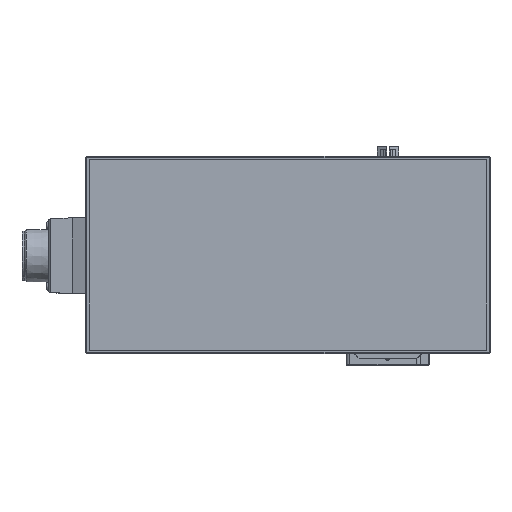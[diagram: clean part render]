
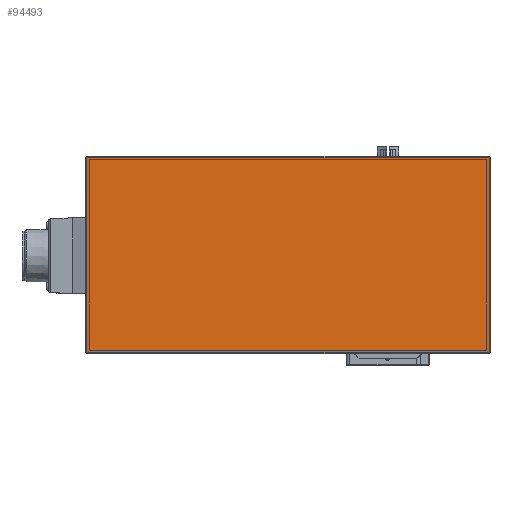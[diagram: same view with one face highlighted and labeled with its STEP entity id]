
A CAD part, top view. The second image highlights one B-rep face of the part: STEP entity #94493.
In plain terms, the highlighted planar face has unit normal (0, 0, 1).
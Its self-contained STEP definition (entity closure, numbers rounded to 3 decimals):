
#94454=CARTESIAN_POINT('',(-60.4,62.5,568.));
#94455=DIRECTION('',(0.,1.,0.));
#94456=DIRECTION('',(0.,-0.,1.));
#94457=AXIS2_PLACEMENT_3D('',#94454,#94456,#94455);
#94458=PLANE('',#94457);
#94459=CARTESIAN_POINT('',(-181.9,-59.,568.));
#94460=VERTEX_POINT('',#94459);
#94461=CARTESIAN_POINT('',(61.1,-59.,568.));
#94462=VERTEX_POINT('',#94461);
#94463=CARTESIAN_POINT('',(-181.9,-59.,568.));
#94464=DIRECTION('',(1.,0.,0.));
#94465=VECTOR('',#94464,243.);
#94466=LINE('',#94463,#94465);
#94467=EDGE_CURVE('',#94460,#94462,#94466,.T.);
#94468=ORIENTED_EDGE('E7841',*,*,#94467,.T.);
#94469=CARTESIAN_POINT('',(61.1,59.,568.));
#94470=VERTEX_POINT('',#94469);
#94471=CARTESIAN_POINT('',(61.1,-59.,568.));
#94472=DIRECTION('',(0.,1.,0.));
#94473=VECTOR('',#94472,118.);
#94474=LINE('',#94471,#94473);
#94475=EDGE_CURVE('',#94462,#94470,#94474,.T.);
#94476=ORIENTED_EDGE('E7842',*,*,#94475,.T.);
#94477=CARTESIAN_POINT('',(-181.9,59.,568.));
#94478=VERTEX_POINT('',#94477);
#94479=CARTESIAN_POINT('',(61.1,59.,568.));
#94480=DIRECTION('',(-1.,0.,0.));
#94481=VECTOR('',#94480,243.);
#94482=LINE('',#94479,#94481);
#94483=EDGE_CURVE('',#94470,#94478,#94482,.T.);
#94484=ORIENTED_EDGE('E7843',*,*,#94483,.T.);
#94485=CARTESIAN_POINT('',(-181.9,59.,568.));
#94486=DIRECTION('',(0.,-1.,0.));
#94487=VECTOR('',#94486,118.);
#94488=LINE('',#94485,#94487);
#94489=EDGE_CURVE('',#94478,#94460,#94488,.T.);
#94490=ORIENTED_EDGE('E7844',*,*,#94489,.T.);
#94491=EDGE_LOOP('',(#94468,#94476,#94484,#94490));
#94492=FACE_OUTER_BOUND('',#94491,.T.);
#94493=ADVANCED_FACE('F3035',(#94492),#94458,.T.);
